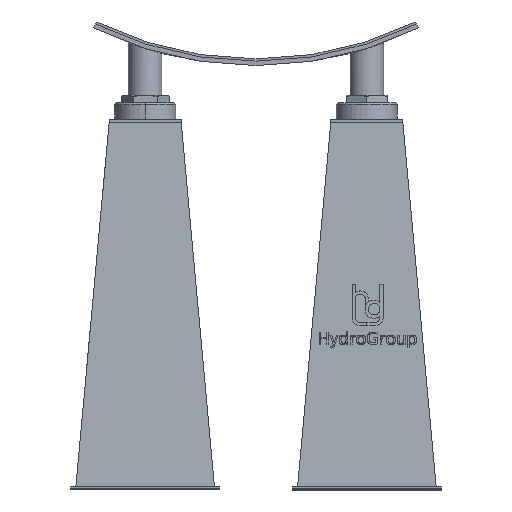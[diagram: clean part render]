
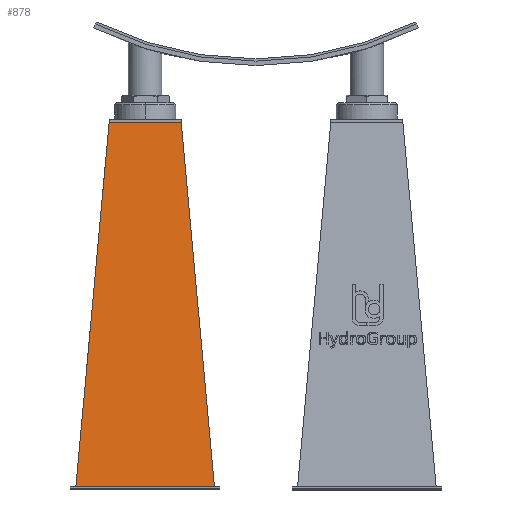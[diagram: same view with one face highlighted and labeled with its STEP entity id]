
A CAD part, front view. The second image highlights one B-rep face of the part: STEP entity #878.
In plain terms, the highlighted planar face has unit normal (0, -0.996, 0.091).
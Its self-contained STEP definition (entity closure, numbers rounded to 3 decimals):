
#878=ADVANCED_FACE('',(#1968),#1969,.T.);
#1968=FACE_OUTER_BOUND('',#3364,.T.);
#1969=PLANE('',#3365);
#3364=EDGE_LOOP('',(#5949,#5950,#5951,#5952));
#3365=AXIS2_PLACEMENT_3D('',#5953,#5954,#5955);
#5949=ORIENTED_EDGE('',*,*,#8977,.T.);
#5950=ORIENTED_EDGE('',*,*,#8994,.F.);
#5951=ORIENTED_EDGE('',*,*,#8964,.T.);
#5952=ORIENTED_EDGE('',*,*,#8724,.T.);
#5953=CARTESIAN_POINT('',(246.772,465.999,241.058));
#5954=DIRECTION('',(0.,-0.996,0.091));
#5955=DIRECTION('',(-1.0,0.,0.));
#8724=EDGE_CURVE('',#10399,#10397,#10400,.F.);
#8964=EDGE_CURVE('',#10713,#10399,#10714,.F.);
#8977=EDGE_CURVE('',#10397,#10735,#10738,.T.);
#8994=EDGE_CURVE('',#10713,#10735,#10759,.T.);
#10397=VERTEX_POINT('',#13012);
#10399=VERTEX_POINT('',#13015);
#10400=LINE('',#13016,#13017);
#10713=VERTEX_POINT('',#13587);
#10714=LINE('',#13588,#13589);
#10735=VERTEX_POINT('',#13620);
#10738=LINE('',#13624,#13625);
#10759=LINE('',#13656,#13657);
#13012=CARTESIAN_POINT('',(183.76,405.974,-416.215));
#13015=CARTESIAN_POINT('',(243.76,465.974,240.785));
#13016=CARTESIAN_POINT('',(244.318,466.532,246.895));
#13017=VECTOR('',#16774,1.);
#13587=CARTESIAN_POINT('',(373.785,465.974,240.785));
#13588=CARTESIAN_POINT('',(277.772,465.974,240.785));
#13589=VECTOR('',#16944,1.);
#13620=CARTESIAN_POINT('',(433.785,405.974,-416.215));
#13624=CARTESIAN_POINT('',(277.772,405.974,-416.215));
#13625=VECTOR('',#16956,1.);
#13656=CARTESIAN_POINT('',(373.227,466.532,246.895));
#13657=VECTOR('',#16967,1.);
#16774=DIRECTION('',(0.091,0.091,0.992));
#16944=DIRECTION('',(1.0,0.,0.));
#16956=DIRECTION('',(1.0,0.,0.));
#16967=DIRECTION('',(0.091,-0.091,-0.992));
